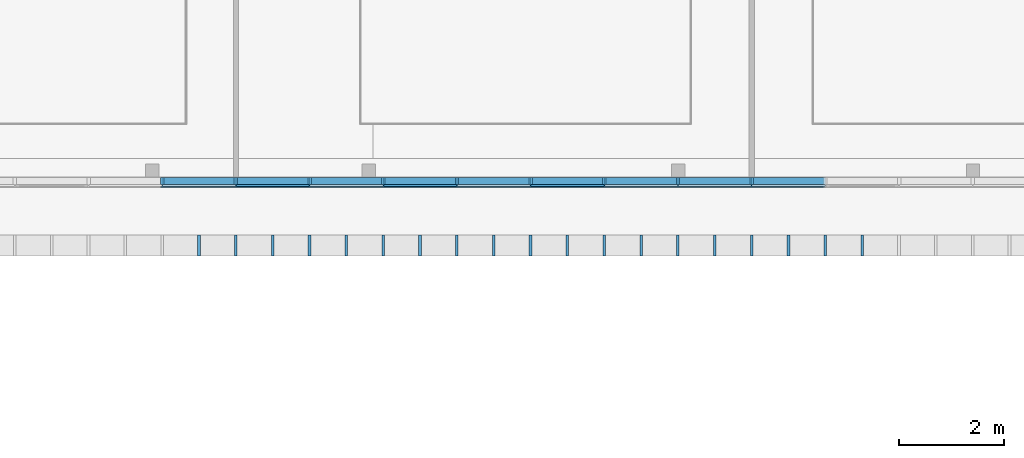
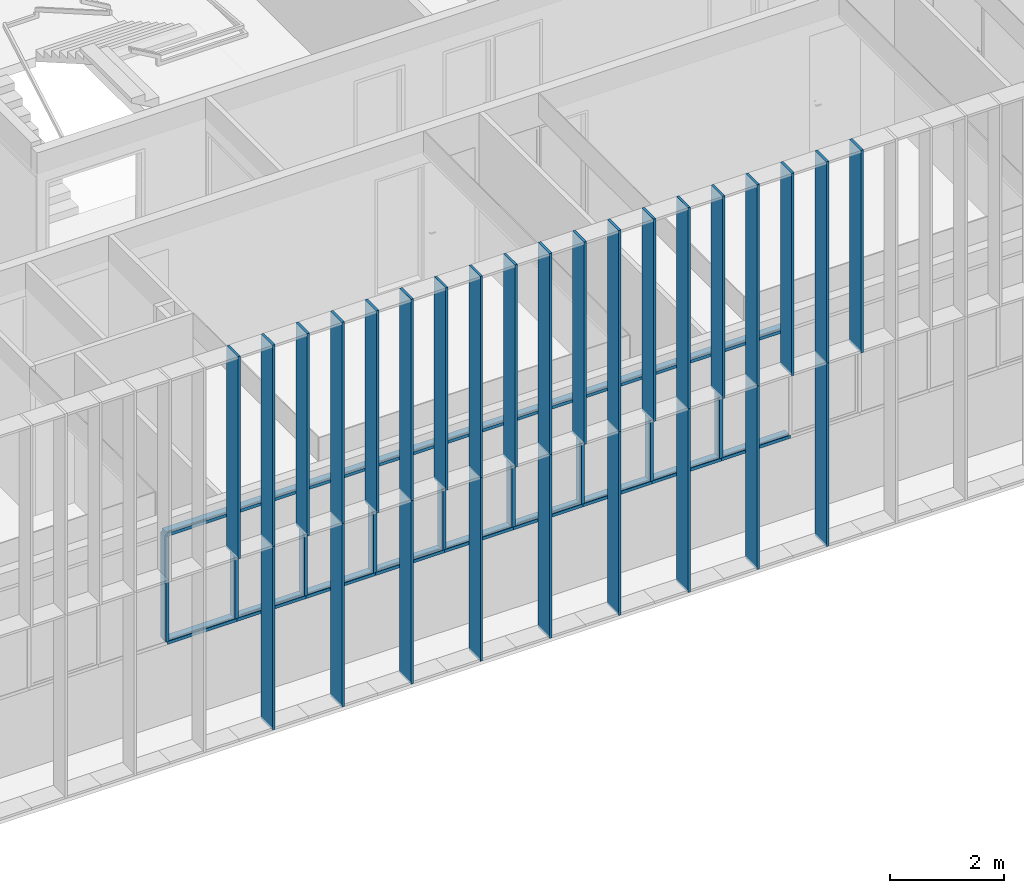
# One storey, part 11 of 106: 55 members, 2 elements without a shape of their own.
"""IFC2X3 building model written with IfcOpenShell, lengths in centimetres."""

from ifc_helpers import new_model, entity, si_unit, converted_unit, derived_unit, direction, frame, origin, origin_2d_with_axis, place, context, subcontext, project, spatial, polyline, rectangle, outline, extrude, source, transform, mapped, material, type_object, type_shapes, element, aggregate, save


model = new_model("IFC2X3")

# Units and contexts
model_context = context("Model", 3, precision=0.001, world=origin(), true_north=direction((6.12303176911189e-17, 1.0)))
body_context = subcontext(model_context, "Body", "Model", "MODEL_VIEW")
ifc_project = project(units=[si_unit("LENGTHUNIT", "METRE", prefix="CENTI"), si_unit("AREAUNIT", "SQUARE_METRE"), si_unit("VOLUMEUNIT", "CUBIC_METRE"), converted_unit("PLANEANGLEUNIT", "DEGREE", entity("IfcRatioMeasure", 0.0174532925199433), si_unit("PLANEANGLEUNIT", "RADIAN"), dimensions=[0, 0, 0, 0, 0, 0, 0]), si_unit("MASSUNIT", "GRAM", prefix="KILO"), derived_unit("MASSDENSITYUNIT", [(si_unit("MASSUNIT", "GRAM", prefix="KILO"), 1), (si_unit("LENGTHUNIT", "METRE"), -3)]), si_unit("TIMEUNIT", "SECOND"), si_unit("FREQUENCYUNIT", "HERTZ"), si_unit("THERMODYNAMICTEMPERATUREUNIT", "DEGREE_CELSIUS"), derived_unit("THERMALTRANSMITTANCEUNIT", [(si_unit("MASSUNIT", "GRAM", prefix="KILO"), 1), (si_unit("THERMODYNAMICTEMPERATUREUNIT", "KELVIN"), -1), (si_unit("TIMEUNIT", "SECOND"), -3)]), derived_unit("VOLUMETRICFLOWRATEUNIT", [(si_unit("LENGTHUNIT", "METRE"), 3), (si_unit("TIMEUNIT", "SECOND"), -1)]), si_unit("ELECTRICCURRENTUNIT", "AMPERE"), si_unit("ELECTRICVOLTAGEUNIT", "VOLT"), si_unit("POWERUNIT", "WATT"), si_unit("FORCEUNIT", "NEWTON", prefix="KILO"), si_unit("ILLUMINANCEUNIT", "LUX"), si_unit("LUMINOUSFLUXUNIT", "LUMEN"), si_unit("LUMINOUSINTENSITYUNIT", "CANDELA"), derived_unit("USERDEFINED", [(si_unit("MASSUNIT", "GRAM", prefix="KILO"), -1), (si_unit("LENGTHUNIT", "METRE"), -2), (si_unit("TIMEUNIT", "SECOND"), 3), (si_unit("LUMINOUSFLUXUNIT", "LUMEN"), 1)]), derived_unit("LINEARVELOCITYUNIT", [(si_unit("LENGTHUNIT", "METRE"), 1), (si_unit("TIMEUNIT", "SECOND"), -1)]), si_unit("PRESSUREUNIT", "PASCAL"), derived_unit("USERDEFINED", [(si_unit("LENGTHUNIT", "METRE"), -2), (si_unit("MASSUNIT", "GRAM", prefix="KILO"), 1), (si_unit("TIMEUNIT", "SECOND"), -2)])], contexts=[model_context])

# Site, building, storey
site_placement = place(None, frame((-2781.94577612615, 7442.24238424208, 0.0)))
site = spatial("IfcSite", under=ifc_project, at=site_placement, Name="Default", CompositionType="ELEMENT")
building_placement = place(site_placement, origin())
building = spatial("IfcBuilding", under=site, at=building_placement, CompositionType="ELEMENT")
storey_placement = place(building_placement, frame((0.0, 0.0, 422.0)))
storey = spatial("IfcBuildingStorey", under=building, at=storey_placement, Name="Toiture - Cuisine", CompositionType="ELEMENT", Elevation=421.999999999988)

# Curtain wall, members
curtain_wall_type_1 = type_object("IfcCurtainWallType", Name="Mur-rideau:07 - mur rideau trame 140 cm", PredefinedType="NOTDEFINED")
curtain_wall_1_placement = place(building_placement, origin())
curtain_wall_1 = element("IfcCurtainWall", 1, at=curtain_wall_1_placement, inside=storey, type_object=curtain_wall_type_1, Name="Mur-rideau:07 - mur rideau trame 140 cm", ObjectType="Mur-rideau:07 - mur rideau trame 140 cm")
ifc_material = material(Name="Aluminium")
member_type_1 = type_object("IfcMemberType", Name="150 x 25mm Détails", PredefinedType="MEMBER")
shared_shape_1 = source(origin(), body_context, "Body", "SweptSolid", [
    extrude(outline(polyline([(-5.6666666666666, -3.24999999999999), (-3.66666666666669, -3.24999999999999), (-3.66666666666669, -0.868749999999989), (-0.166666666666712, -0.868749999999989), (-0.166666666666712, -3.25000000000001), (13.3333333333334, -3.25000000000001), (13.3333333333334, 3.24999999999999), (-0.16666666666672, 3.24999999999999), (-0.16666666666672, 0.868749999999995), (-3.66666666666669, 0.868749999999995), (-3.66666666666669, 3.25), (-5.6666666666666, 3.25), (-5.6666666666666, -3.24999999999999)])), frame((-3.24999999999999, -1.96666666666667, -140.0), z_axis=(0.0, 0.0, 1.0), x_axis=(0.0, -1.0, 0.0)), (0.0, 0.0, 1.0), 140.000000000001),
])
type_shapes(member_type_1, [shared_shape_1])
member_1_placement = place(building_placement, frame((-3910.29988284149, -3046.51349958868, 743.0), z_axis=(1.0, 0.0, 0.0), x_axis=(0.0, 0.0, 1.0)))
member_1 = element("IfcMember", 2, at=member_1_placement, type_object=member_type_1, material=ifc_material, Name="Meneau rectangulaire:150 x 25mm Détails", ObjectType="Meneau rectangulaire:150 x 25mm Détails", context=body_context, shape_type="MappedRepresentation", body=[
    mapped(shared_shape_1, transform((0.0, 0.0, 0.0), scale=1.0)),
])
member_2_placement = place(building_placement, frame((-3770.29988284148, -3046.51349958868, 743.0), z_axis=(1.0, 0.0, 0.0), x_axis=(0.0, 0.0, 1.0)))
member_2 = element("IfcMember", 3, at=member_2_placement, type_object=member_type_1, material=ifc_material, Name="Meneau rectangulaire:150 x 25mm Détails", ObjectType="Meneau rectangulaire:150 x 25mm Détails", context=body_context, shape_type="MappedRepresentation", body=[
    mapped(shared_shape_1, transform((0.0, 0.0, 0.0), scale=1.0)),
])
member_3_placement = place(building_placement, frame((-3630.29988284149, -3046.51349958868, 743.0), z_axis=(1.0, 0.0, 0.0), x_axis=(0.0, 0.0, 1.0)))
member_3 = element("IfcMember", 4, at=member_3_placement, type_object=member_type_1, material=ifc_material, Name="Meneau rectangulaire:150 x 25mm Détails", ObjectType="Meneau rectangulaire:150 x 25mm Détails", context=body_context, shape_type="MappedRepresentation", body=[
    mapped(shared_shape_1, transform((0.0, 0.0, 0.0), scale=1.0)),
])
member_4_placement = place(building_placement, frame((-3490.29988284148, -3046.51349958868, 743.0), z_axis=(1.0, 0.0, 0.0), x_axis=(0.0, 0.0, 1.0)))
member_4 = element("IfcMember", 5, at=member_4_placement, type_object=member_type_1, material=ifc_material, Name="Meneau rectangulaire:150 x 25mm Détails", ObjectType="Meneau rectangulaire:150 x 25mm Détails", context=body_context, shape_type="MappedRepresentation", body=[
    mapped(shared_shape_1, transform((0.0, 0.0, 0.0), scale=1.0)),
])
member_5_placement = place(building_placement, frame((-3350.29988284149, -3046.51349958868, 743.0), z_axis=(1.0, 0.0, 0.0), x_axis=(0.0, 0.0, 1.0)))
member_5 = element("IfcMember", 6, at=member_5_placement, type_object=member_type_1, material=ifc_material, Name="Meneau rectangulaire:150 x 25mm Détails", ObjectType="Meneau rectangulaire:150 x 25mm Détails", context=body_context, shape_type="MappedRepresentation", body=[
    mapped(shared_shape_1, transform((0.0, 0.0, 0.0), scale=1.0)),
])
member_6_placement = place(building_placement, frame((-3210.29988284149, -3046.51349958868, 743.0), z_axis=(1.0, 0.0, 0.0), x_axis=(0.0, 0.0, 1.0)))
member_6 = element("IfcMember", 7, at=member_6_placement, type_object=member_type_1, material=ifc_material, Name="Meneau rectangulaire:150 x 25mm Détails", ObjectType="Meneau rectangulaire:150 x 25mm Détails", context=body_context, shape_type="MappedRepresentation", body=[
    mapped(shared_shape_1, transform((0.0, 0.0, 0.0), scale=1.0)),
])
member_7_placement = place(building_placement, frame((-3070.29988284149, -3046.51349958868, 743.0), z_axis=(1.0, 0.0, 0.0), x_axis=(0.0, 0.0, 1.0)))
member_7 = element("IfcMember", 8, at=member_7_placement, type_object=member_type_1, material=ifc_material, Name="Meneau rectangulaire:150 x 25mm Détails", ObjectType="Meneau rectangulaire:150 x 25mm Détails", context=body_context, shape_type="MappedRepresentation", body=[
    mapped(shared_shape_1, transform((0.0, 0.0, 0.0), scale=1.0)),
])
member_8_placement = place(building_placement, frame((-2930.29988284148, -3046.51349958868, 743.0), z_axis=(1.0, 0.0, 0.0), x_axis=(0.0, 0.0, 1.0)))
member_8 = element("IfcMember", 9, at=member_8_placement, type_object=member_type_1, material=ifc_material, Name="Meneau rectangulaire:150 x 25mm Détails", ObjectType="Meneau rectangulaire:150 x 25mm Détails", context=body_context, shape_type="MappedRepresentation", body=[
    mapped(shared_shape_1, transform((0.0, 0.0, 0.0), scale=1.0)),
])
member_9_placement = place(building_placement, frame((-2790.29988284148, -3046.51349958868, 743.0), z_axis=(1.0, 0.0, 0.0), x_axis=(0.0, 0.0, 1.0)))
member_9 = element("IfcMember", 10, at=member_9_placement, type_object=member_type_1, material=ifc_material, Name="Meneau rectangulaire:150 x 25mm Détails", ObjectType="Meneau rectangulaire:150 x 25mm Détails", context=body_context, shape_type="MappedRepresentation", body=[
    mapped(shared_shape_1, transform((0.0, 0.0, 0.0), scale=1.0)),
])
member_type_2 = type_object("IfcMemberType", Name="150 x 25mm Détails", PredefinedType="MEMBER")
shared_shape_2 = source(origin(), body_context, "Body", "SweptSolid", [
    extrude(outline(polyline([(-5.66666666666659, -3.25), (-3.66666666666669, -3.25), (-3.66666666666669, -0.868749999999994), (-0.166666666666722, -0.868749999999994), (-0.166666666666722, -3.25000000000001), (13.3333333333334, -3.24999999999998), (13.3333333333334, 3.25000000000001), (-0.166666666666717, 3.25000000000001), (-0.166666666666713, 0.868749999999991), (-3.66666666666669, 0.868749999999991), (-3.66666666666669, 3.24999999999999), (-5.66666666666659, 3.24999999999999), (-5.66666666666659, -3.25)])), frame((-3.24999999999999, -1.96666666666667, -140.0), z_axis=(0.0, 0.0, 1.0), x_axis=(0.0, -1.0, 0.0)), (0.0, 0.0, 1.0), 140.000000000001),
])
type_shapes(member_type_2, [shared_shape_2])
member_10_placement = place(building_placement, frame((-4050.29988284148, -3046.51349958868, 505.500000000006), z_axis=(-1.0, 0.0, 0.0), x_axis=(0.0, 0.0, -1.0)))
member_10 = element("IfcMember", 11, at=member_10_placement, type_object=member_type_2, material=ifc_material, Name="Meneau rectangulaire:150 x 25mm Détails", ObjectType="Meneau rectangulaire:150 x 25mm Détails", context=body_context, shape_type="MappedRepresentation", body=[
    mapped(shared_shape_2, transform((0.0, 0.0, 0.0), scale=1.0)),
])
member_11_placement = place(building_placement, frame((-3910.29988284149, -3046.51349958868, 505.500000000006), z_axis=(-1.0, 0.0, 0.0), x_axis=(0.0, 0.0, -1.0)))
member_11 = element("IfcMember", 12, at=member_11_placement, type_object=member_type_2, material=ifc_material, Name="Meneau rectangulaire:150 x 25mm Détails", ObjectType="Meneau rectangulaire:150 x 25mm Détails", context=body_context, shape_type="MappedRepresentation", body=[
    mapped(shared_shape_2, transform((0.0, 0.0, 0.0), scale=1.0)),
])
member_12_placement = place(building_placement, frame((-3770.29988284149, -3046.51349958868, 505.500000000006), z_axis=(-1.0, 0.0, 0.0), x_axis=(0.0, 0.0, -1.0)))
member_12 = element("IfcMember", 13, at=member_12_placement, type_object=member_type_2, material=ifc_material, Name="Meneau rectangulaire:150 x 25mm Détails", ObjectType="Meneau rectangulaire:150 x 25mm Détails", context=body_context, shape_type="MappedRepresentation", body=[
    mapped(shared_shape_2, transform((0.0, 0.0, 0.0), scale=1.0)),
])
member_13_placement = place(building_placement, frame((-3630.29988284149, -3046.51349958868, 505.500000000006), z_axis=(-1.0, 0.0, 0.0), x_axis=(0.0, 0.0, -1.0)))
member_13 = element("IfcMember", 14, at=member_13_placement, type_object=member_type_2, material=ifc_material, Name="Meneau rectangulaire:150 x 25mm Détails", ObjectType="Meneau rectangulaire:150 x 25mm Détails", context=body_context, shape_type="MappedRepresentation", body=[
    mapped(shared_shape_2, transform((0.0, 0.0, 0.0), scale=1.0)),
])
member_14_placement = place(building_placement, frame((-3490.29988284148, -3046.51349958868, 505.500000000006), z_axis=(-1.0, 0.0, 0.0), x_axis=(0.0, 0.0, -1.0)))
member_14 = element("IfcMember", 15, at=member_14_placement, type_object=member_type_2, material=ifc_material, Name="Meneau rectangulaire:150 x 25mm Détails", ObjectType="Meneau rectangulaire:150 x 25mm Détails", context=body_context, shape_type="MappedRepresentation", body=[
    mapped(shared_shape_2, transform((0.0, 0.0, 0.0), scale=1.0)),
])
member_15_placement = place(building_placement, frame((-3350.29988284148, -3046.51349958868, 505.500000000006), z_axis=(-1.0, 0.0, 0.0), x_axis=(0.0, 0.0, -1.0)))
member_15 = element("IfcMember", 16, at=member_15_placement, type_object=member_type_2, material=ifc_material, Name="Meneau rectangulaire:150 x 25mm Détails", ObjectType="Meneau rectangulaire:150 x 25mm Détails", context=body_context, shape_type="MappedRepresentation", body=[
    mapped(shared_shape_2, transform((0.0, 0.0, 0.0), scale=1.0)),
])
member_16_placement = place(building_placement, frame((-3210.29988284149, -3046.51349958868, 505.500000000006), z_axis=(-1.0, 0.0, 0.0), x_axis=(0.0, 0.0, -1.0)))
member_16 = element("IfcMember", 17, at=member_16_placement, type_object=member_type_2, material=ifc_material, Name="Meneau rectangulaire:150 x 25mm Détails", ObjectType="Meneau rectangulaire:150 x 25mm Détails", context=body_context, shape_type="MappedRepresentation", body=[
    mapped(shared_shape_2, transform((0.0, 0.0, 0.0), scale=1.0)),
])
member_17_placement = place(building_placement, frame((-3070.29988284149, -3046.51349958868, 505.500000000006), z_axis=(-1.0, 0.0, 0.0), x_axis=(0.0, 0.0, -1.0)))
member_17 = element("IfcMember", 18, at=member_17_placement, type_object=member_type_2, material=ifc_material, Name="Meneau rectangulaire:150 x 25mm Détails", ObjectType="Meneau rectangulaire:150 x 25mm Détails", context=body_context, shape_type="MappedRepresentation", body=[
    mapped(shared_shape_2, transform((0.0, 0.0, 0.0), scale=1.0)),
])
member_18_placement = place(building_placement, frame((-2930.29988284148, -3046.51349958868, 505.500000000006), z_axis=(-1.0, 0.0, 0.0), x_axis=(0.0, 0.0, -1.0)))
member_18 = element("IfcMember", 19, at=member_18_placement, type_object=member_type_2, material=ifc_material, Name="Meneau rectangulaire:150 x 25mm Détails", ObjectType="Meneau rectangulaire:150 x 25mm Détails", context=body_context, shape_type="MappedRepresentation", body=[
    mapped(shared_shape_2, transform((0.0, 0.0, 0.0), scale=1.0)),
])
member_type_3 = type_object("IfcMemberType", Name="150 x 25mm Détails", PredefinedType="MEMBER")
shared_shape_3 = source(origin(), body_context, "Body", "SweptSolid", [
    extrude(outline(polyline([(-5.6666666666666, -3.24999999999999), (-3.66666666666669, -3.24999999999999), (-3.66666666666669, -0.86874999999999), (-0.166666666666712, -0.86874999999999), (-0.166666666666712, -3.25000000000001), (13.3333333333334, -3.25000000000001), (13.3333333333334, 3.24999999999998), (-0.16666666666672, 3.24999999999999), (-0.16666666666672, 0.868749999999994), (-3.66666666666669, 0.868749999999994), (-3.66666666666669, 3.25), (-5.6666666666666, 3.25), (-5.6666666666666, -3.24999999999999)])), frame((0.0, -1.96666666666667, -224.5), z_axis=(0.0, 0.0, 1.0), x_axis=(0.0, -1.0, 0.0)), (0.0, 0.0, 1.0), 224.5),
])
type_shapes(member_type_3, [shared_shape_3])
member_19_placement = place(building_placement, frame((-4050.29988284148, -3046.51349958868, 512.0), z_axis=(0.0, 0.0, -1.0), x_axis=(1.0, 0.0, 0.0)))
member_19 = element("IfcMember", 20, at=member_19_placement, type_object=member_type_3, material=ifc_material, Name="Meneau rectangulaire:150 x 25mm Détails", ObjectType="Meneau rectangulaire:150 x 25mm Détails", context=body_context, shape_type="MappedRepresentation", body=[
    mapped(shared_shape_3, transform((0.0, 0.0, 0.0), scale=1.0)),
])
member_20_placement = place(building_placement, frame((-3910.29988284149, -3046.51349958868, 512.0), z_axis=(0.0, 0.0, -1.0), x_axis=(1.0, 0.0, 0.0)))
member_20 = element("IfcMember", 21, at=member_20_placement, type_object=member_type_3, material=ifc_material, Name="Meneau rectangulaire:150 x 25mm Détails", ObjectType="Meneau rectangulaire:150 x 25mm Détails", context=body_context, shape_type="MappedRepresentation", body=[
    mapped(shared_shape_3, transform((0.0, 0.0, 0.0), scale=1.0)),
])
member_21_placement = place(building_placement, frame((-3770.29988284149, -3046.51349958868, 512.0), z_axis=(0.0, 0.0, -1.0), x_axis=(1.0, 0.0, 0.0)))
member_21 = element("IfcMember", 22, at=member_21_placement, type_object=member_type_3, material=ifc_material, Name="Meneau rectangulaire:150 x 25mm Détails", ObjectType="Meneau rectangulaire:150 x 25mm Détails", context=body_context, shape_type="MappedRepresentation", body=[
    mapped(shared_shape_3, transform((0.0, 0.0, 0.0), scale=1.0)),
])
member_22_placement = place(building_placement, frame((-3630.29988284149, -3046.51349958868, 512.0), z_axis=(0.0, 0.0, -1.0), x_axis=(1.0, 0.0, 0.0)))
member_22 = element("IfcMember", 23, at=member_22_placement, type_object=member_type_3, material=ifc_material, Name="Meneau rectangulaire:150 x 25mm Détails", ObjectType="Meneau rectangulaire:150 x 25mm Détails", context=body_context, shape_type="MappedRepresentation", body=[
    mapped(shared_shape_3, transform((0.0, 0.0, 0.0), scale=1.0)),
])
member_23_placement = place(building_placement, frame((-3490.29988284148, -3046.51349958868, 512.0), z_axis=(0.0, 0.0, -1.0), x_axis=(1.0, 0.0, 0.0)))
member_23 = element("IfcMember", 24, at=member_23_placement, type_object=member_type_3, material=ifc_material, Name="Meneau rectangulaire:150 x 25mm Détails", ObjectType="Meneau rectangulaire:150 x 25mm Détails", context=body_context, shape_type="MappedRepresentation", body=[
    mapped(shared_shape_3, transform((0.0, 0.0, 0.0), scale=1.0)),
])
member_24_placement = place(building_placement, frame((-3350.29988284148, -3046.51349958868, 512.0), z_axis=(0.0, 0.0, -1.0), x_axis=(1.0, 0.0, 0.0)))
member_24 = element("IfcMember", 25, at=member_24_placement, type_object=member_type_3, material=ifc_material, Name="Meneau rectangulaire:150 x 25mm Détails", ObjectType="Meneau rectangulaire:150 x 25mm Détails", context=body_context, shape_type="MappedRepresentation", body=[
    mapped(shared_shape_3, transform((0.0, 0.0, 0.0), scale=1.0)),
])
member_25_placement = place(building_placement, frame((-3210.29988284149, -3046.51349958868, 512.0), z_axis=(0.0, 0.0, -1.0), x_axis=(1.0, 0.0, 0.0)))
member_25 = element("IfcMember", 26, at=member_25_placement, type_object=member_type_3, material=ifc_material, Name="Meneau rectangulaire:150 x 25mm Détails", ObjectType="Meneau rectangulaire:150 x 25mm Détails", context=body_context, shape_type="MappedRepresentation", body=[
    mapped(shared_shape_3, transform((0.0, 0.0, 0.0), scale=1.0)),
])
member_26_placement = place(building_placement, frame((-3070.29988284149, -3046.51349958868, 512.0), z_axis=(0.0, 0.0, -1.0), x_axis=(1.0, 0.0, 0.0)))
member_26 = element("IfcMember", 27, at=member_26_placement, type_object=member_type_3, material=ifc_material, Name="Meneau rectangulaire:150 x 25mm Détails", ObjectType="Meneau rectangulaire:150 x 25mm Détails", context=body_context, shape_type="MappedRepresentation", body=[
    mapped(shared_shape_3, transform((0.0, 0.0, 0.0), scale=1.0)),
])
member_27_placement = place(building_placement, frame((-2930.29988284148, -3046.51349958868, 512.0), z_axis=(0.0, 0.0, -1.0), x_axis=(1.0, 0.0, 0.0)))
member_27 = element("IfcMember", 28, at=member_27_placement, type_object=member_type_3, material=ifc_material, Name="Meneau rectangulaire:150 x 25mm Détails", ObjectType="Meneau rectangulaire:150 x 25mm Détails", context=body_context, shape_type="MappedRepresentation", body=[
    mapped(shared_shape_3, transform((0.0, 0.0, 0.0), scale=1.0)),
])
aggregate(curtain_wall_1, [member_1, member_2, member_3, member_4, member_5, member_6, member_7, member_8, member_9, member_10, member_11, member_12, member_13, member_14, member_15, member_16, member_17, member_18, member_19, member_20, member_21, member_22, member_23, member_24, member_25, member_26, member_27])

curtain_wall_type_2 = type_object("IfcCurtainWallType", Name="Mur-rideau:Epines - 400x30mm", PredefinedType="NOTDEFINED")
curtain_wall_2_placement = place(building_placement, origin())
curtain_wall_2 = element("IfcCurtainWall", 29, at=curtain_wall_2_placement, inside=storey, type_object=curtain_wall_type_2, Name="Mur-rideau:Epines - 400x30mm", ObjectType="Mur-rideau:Epines - 400x30mm")
member_type_4 = type_object("IfcMemberType", Name="Epine sud (400x50 mm)", PredefinedType="MEMBER")
shared_shape_4 = source(origin(), body_context, "Body", "SweptSolid", [
    extrude(rectangle(XDim=40.0, YDim=5.0, at=origin_2d_with_axis()), frame((0.0, 0.0, -392.5), z_axis=(0.0, 0.0, 1.0), x_axis=(0.0, -1.0, 0.0)), (0.0, 0.0, 1.0), 392.5),
])
type_shapes(member_type_4, [shared_shape_4])
member_28_placement = place(building_placement, frame((-3910.49987760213, -3160.31349958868, 353.0), z_axis=(0.0, 0.0, -1.0), x_axis=(1.0, 0.0, 0.0)))
member_28 = element("IfcMember", 30, at=member_28_placement, type_object=member_type_4, material=ifc_material, Name="Meneau rectangulaire:Epine sud (400x50 mm)", ObjectType="Meneau rectangulaire:Epine sud (400x50 mm)", context=body_context, shape_type="MappedRepresentation", body=[
    mapped(shared_shape_4, transform((0.0, 0.0, 0.0), scale=1.0)),
])
member_29_placement = place(building_placement, frame((-3770.49987760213, -3160.31349958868, 353.0), z_axis=(0.0, 0.0, -1.0), x_axis=(1.0, 0.0, 0.0)))
member_29 = element("IfcMember", 31, at=member_29_placement, type_object=member_type_4, material=ifc_material, Name="Meneau rectangulaire:Epine sud (400x50 mm)", ObjectType="Meneau rectangulaire:Epine sud (400x50 mm)", context=body_context, shape_type="MappedRepresentation", body=[
    mapped(shared_shape_4, transform((0.0, 0.0, 0.0), scale=1.0)),
])
member_30_placement = place(building_placement, frame((-3630.49987760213, -3160.31349958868, 353.0), z_axis=(0.0, 0.0, -1.0), x_axis=(1.0, 0.0, 0.0)))
member_30 = element("IfcMember", 32, at=member_30_placement, type_object=member_type_4, material=ifc_material, Name="Meneau rectangulaire:Epine sud (400x50 mm)", ObjectType="Meneau rectangulaire:Epine sud (400x50 mm)", context=body_context, shape_type="MappedRepresentation", body=[
    mapped(shared_shape_4, transform((0.0, 0.0, 0.0), scale=1.0)),
])
member_31_placement = place(building_placement, frame((-3490.49987760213, -3160.31349958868, 353.0), z_axis=(0.0, 0.0, -1.0), x_axis=(1.0, 0.0, 0.0)))
member_31 = element("IfcMember", 33, at=member_31_placement, type_object=member_type_4, material=ifc_material, Name="Meneau rectangulaire:Epine sud (400x50 mm)", ObjectType="Meneau rectangulaire:Epine sud (400x50 mm)", context=body_context, shape_type="MappedRepresentation", body=[
    mapped(shared_shape_4, transform((0.0, 0.0, 0.0), scale=1.0)),
])
member_32_placement = place(building_placement, frame((-3070.49987760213, -3160.31349958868, 353.0), z_axis=(0.0, 0.0, -1.0), x_axis=(1.0, 0.0, 0.0)))
member_32 = element("IfcMember", 34, at=member_32_placement, type_object=member_type_4, material=ifc_material, Name="Meneau rectangulaire:Epine sud (400x50 mm)", ObjectType="Meneau rectangulaire:Epine sud (400x50 mm)", context=body_context, shape_type="MappedRepresentation", body=[
    mapped(shared_shape_4, transform((0.0, 0.0, 0.0), scale=1.0)),
])
member_33_placement = place(building_placement, frame((-3350.49987760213, -3160.31349958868, 353.0), z_axis=(0.0, 0.0, -1.0), x_axis=(1.0, 0.0, 0.0)))
member_33 = element("IfcMember", 35, at=member_33_placement, type_object=member_type_4, material=ifc_material, Name="Meneau rectangulaire:Epine sud (400x50 mm)", ObjectType="Meneau rectangulaire:Epine sud (400x50 mm)", context=body_context, shape_type="MappedRepresentation", body=[
    mapped(shared_shape_4, transform((0.0, 0.0, 0.0), scale=1.0)),
])
member_34_placement = place(building_placement, frame((-3210.49987760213, -3160.31349958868, 353.0), z_axis=(0.0, 0.0, -1.0), x_axis=(1.0, 0.0, 0.0)))
member_34 = element("IfcMember", 36, at=member_34_placement, type_object=member_type_4, material=ifc_material, Name="Meneau rectangulaire:Epine sud (400x50 mm)", ObjectType="Meneau rectangulaire:Epine sud (400x50 mm)", context=body_context, shape_type="MappedRepresentation", body=[
    mapped(shared_shape_4, transform((0.0, 0.0, 0.0), scale=1.0)),
])
member_35_placement = place(building_placement, frame((-2930.49987760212, -3160.31349958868, 353.0), z_axis=(0.0, 0.0, -1.0), x_axis=(1.0, 0.0, 0.0)))
member_35 = element("IfcMember", 37, at=member_35_placement, type_object=member_type_4, material=ifc_material, Name="Meneau rectangulaire:Epine sud (400x50 mm)", ObjectType="Meneau rectangulaire:Epine sud (400x50 mm)", context=body_context, shape_type="MappedRepresentation", body=[
    mapped(shared_shape_4, transform((0.0, 0.0, 0.0), scale=1.0)),
])
member_36_placement = place(building_placement, frame((-2790.49987760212, -3160.31349958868, 353.0), z_axis=(0.0, 0.0, -1.0), x_axis=(1.0, 0.0, 0.0)))
member_36 = element("IfcMember", 38, at=member_36_placement, type_object=member_type_4, material=ifc_material, Name="Meneau rectangulaire:Epine sud (400x50 mm)", ObjectType="Meneau rectangulaire:Epine sud (400x50 mm)", context=body_context, shape_type="MappedRepresentation", body=[
    mapped(shared_shape_4, transform((0.0, 0.0, 0.0), scale=1.0)),
])
member_type_5 = type_object("IfcMemberType", Name="Epine sud (400x50 mm)", PredefinedType="MEMBER")
shared_shape_5 = source(origin(), body_context, "Body", "SweptSolid", [
    extrude(rectangle(XDim=40.0, YDim=5.0, at=origin_2d_with_axis()), frame((0.0, 0.0, -430.5), z_axis=(0.0, 0.0, 1.0), x_axis=(0.0, -1.0, 0.0)), (0.0, 0.0, 1.0), 430.5),
])
type_shapes(member_type_5, [shared_shape_5])
member_37_placement = place(building_placement, frame((-3910.49987760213, -3160.31349958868, 745.5), z_axis=(0.0, 0.0, -1.0), x_axis=(1.0, 0.0, 0.0)))
member_37 = element("IfcMember", 39, at=member_37_placement, type_object=member_type_5, material=ifc_material, Name="Meneau rectangulaire:Epine sud (400x50 mm)", ObjectType="Meneau rectangulaire:Epine sud (400x50 mm)", context=body_context, shape_type="MappedRepresentation", body=[
    mapped(shared_shape_5, transform((0.0, 0.0, 0.0), scale=1.0)),
])
member_38_placement = place(building_placement, frame((-3770.49987760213, -3160.31349958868, 745.5), z_axis=(0.0, 0.0, -1.0), x_axis=(1.0, 0.0, 0.0)))
member_38 = element("IfcMember", 40, at=member_38_placement, type_object=member_type_5, material=ifc_material, Name="Meneau rectangulaire:Epine sud (400x50 mm)", ObjectType="Meneau rectangulaire:Epine sud (400x50 mm)", context=body_context, shape_type="MappedRepresentation", body=[
    mapped(shared_shape_5, transform((0.0, 0.0, 0.0), scale=1.0)),
])
member_39_placement = place(building_placement, frame((-3630.49987760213, -3160.31349958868, 745.5), z_axis=(0.0, 0.0, -1.0), x_axis=(1.0, 0.0, 0.0)))
member_39 = element("IfcMember", 41, at=member_39_placement, type_object=member_type_5, material=ifc_material, Name="Meneau rectangulaire:Epine sud (400x50 mm)", ObjectType="Meneau rectangulaire:Epine sud (400x50 mm)", context=body_context, shape_type="MappedRepresentation", body=[
    mapped(shared_shape_5, transform((0.0, 0.0, 0.0), scale=1.0)),
])
member_40_placement = place(building_placement, frame((-3490.49987760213, -3160.31349958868, 745.5), z_axis=(0.0, 0.0, -1.0), x_axis=(1.0, 0.0, 0.0)))
member_40 = element("IfcMember", 42, at=member_40_placement, type_object=member_type_5, material=ifc_material, Name="Meneau rectangulaire:Epine sud (400x50 mm)", ObjectType="Meneau rectangulaire:Epine sud (400x50 mm)", context=body_context, shape_type="MappedRepresentation", body=[
    mapped(shared_shape_5, transform((0.0, 0.0, 0.0), scale=1.0)),
])
member_41_placement = place(building_placement, frame((-3070.49987760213, -3160.31349958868, 745.5), z_axis=(0.0, 0.0, -1.0), x_axis=(1.0, 0.0, 0.0)))
member_41 = element("IfcMember", 43, at=member_41_placement, type_object=member_type_5, material=ifc_material, Name="Meneau rectangulaire:Epine sud (400x50 mm)", ObjectType="Meneau rectangulaire:Epine sud (400x50 mm)", context=body_context, shape_type="MappedRepresentation", body=[
    mapped(shared_shape_5, transform((0.0, 0.0, 0.0), scale=1.0)),
])
member_42_placement = place(building_placement, frame((-3350.49987760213, -3160.31349958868, 745.5), z_axis=(0.0, 0.0, -1.0), x_axis=(1.0, 0.0, 0.0)))
member_42 = element("IfcMember", 44, at=member_42_placement, type_object=member_type_5, material=ifc_material, Name="Meneau rectangulaire:Epine sud (400x50 mm)", ObjectType="Meneau rectangulaire:Epine sud (400x50 mm)", context=body_context, shape_type="MappedRepresentation", body=[
    mapped(shared_shape_5, transform((0.0, 0.0, 0.0), scale=1.0)),
])
member_43_placement = place(building_placement, frame((-3210.49987760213, -3160.31349958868, 745.5), z_axis=(0.0, 0.0, -1.0), x_axis=(1.0, 0.0, 0.0)))
member_43 = element("IfcMember", 45, at=member_43_placement, type_object=member_type_5, material=ifc_material, Name="Meneau rectangulaire:Epine sud (400x50 mm)", ObjectType="Meneau rectangulaire:Epine sud (400x50 mm)", context=body_context, shape_type="MappedRepresentation", body=[
    mapped(shared_shape_5, transform((0.0, 0.0, 0.0), scale=1.0)),
])
member_44_placement = place(building_placement, frame((-2930.49987760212, -3160.31349958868, 745.5), z_axis=(0.0, 0.0, -1.0), x_axis=(1.0, 0.0, 0.0)))
member_44 = element("IfcMember", 46, at=member_44_placement, type_object=member_type_5, material=ifc_material, Name="Meneau rectangulaire:Epine sud (400x50 mm)", ObjectType="Meneau rectangulaire:Epine sud (400x50 mm)", context=body_context, shape_type="MappedRepresentation", body=[
    mapped(shared_shape_5, transform((0.0, 0.0, 0.0), scale=1.0)),
])
member_45_placement = place(building_placement, frame((-2790.49987760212, -3160.31349958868, 745.5), z_axis=(0.0, 0.0, -1.0), x_axis=(1.0, 0.0, 0.0)))
member_45 = element("IfcMember", 47, at=member_45_placement, type_object=member_type_5, material=ifc_material, Name="Meneau rectangulaire:Epine sud (400x50 mm)", ObjectType="Meneau rectangulaire:Epine sud (400x50 mm)", context=body_context, shape_type="MappedRepresentation", body=[
    mapped(shared_shape_5, transform((0.0, 0.0, 0.0), scale=1.0)),
])
member_type_6 = type_object("IfcMemberType", Name="Epine sud (400x50 mm)", PredefinedType="MEMBER")
shared_shape_6 = source(origin(), body_context, "Body", "SweptSolid", [
    extrude(rectangle(XDim=40.0, YDim=5.0, at=origin_2d_with_axis()), frame((0.0, 0.0, -433.0), z_axis=(0.0, 0.0, 1.0), x_axis=(0.0, -1.0, 0.0)), (0.0, 0.0, 1.0), 433.0),
])
type_shapes(member_type_6, [shared_shape_6])
member_46_placement = place(building_placement, frame((-3980.49987760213, -3160.31349958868, 743.0), z_axis=(0.0, 0.0, -1.0), x_axis=(1.0, 0.0, 0.0)))
member_46 = element("IfcMember", 48, at=member_46_placement, type_object=member_type_6, material=ifc_material, Name="Meneau rectangulaire:Epine sud (400x50 mm)", ObjectType="Meneau rectangulaire:Epine sud (400x50 mm)", context=body_context, shape_type="MappedRepresentation", body=[
    mapped(shared_shape_6, transform((0.0, 0.0, 0.0), scale=1.0)),
])
member_47_placement = place(building_placement, frame((-3840.49987760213, -3160.31349958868, 743.0), z_axis=(0.0, 0.0, -1.0), x_axis=(1.0, 0.0, 0.0)))
member_47 = element("IfcMember", 49, at=member_47_placement, type_object=member_type_6, material=ifc_material, Name="Meneau rectangulaire:Epine sud (400x50 mm)", ObjectType="Meneau rectangulaire:Epine sud (400x50 mm)", context=body_context, shape_type="MappedRepresentation", body=[
    mapped(shared_shape_6, transform((0.0, 0.0, 0.0), scale=1.0)),
])
member_48_placement = place(building_placement, frame((-3700.49987760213, -3160.31349958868, 743.0), z_axis=(0.0, 0.0, -1.0), x_axis=(1.0, 0.0, 0.0)))
member_48 = element("IfcMember", 50, at=member_48_placement, type_object=member_type_6, material=ifc_material, Name="Meneau rectangulaire:Epine sud (400x50 mm)", ObjectType="Meneau rectangulaire:Epine sud (400x50 mm)", context=body_context, shape_type="MappedRepresentation", body=[
    mapped(shared_shape_6, transform((0.0, 0.0, 0.0), scale=1.0)),
])
member_49_placement = place(building_placement, frame((-3560.49987760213, -3160.31349958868, 743.0), z_axis=(0.0, 0.0, -1.0), x_axis=(1.0, 0.0, 0.0)))
member_49 = element("IfcMember", 51, at=member_49_placement, type_object=member_type_6, material=ifc_material, Name="Meneau rectangulaire:Epine sud (400x50 mm)", ObjectType="Meneau rectangulaire:Epine sud (400x50 mm)", context=body_context, shape_type="MappedRepresentation", body=[
    mapped(shared_shape_6, transform((0.0, 0.0, 0.0), scale=1.0)),
])
member_50_placement = place(building_placement, frame((-3420.49987760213, -3160.31349958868, 743.0), z_axis=(0.0, 0.0, -1.0), x_axis=(1.0, 0.0, 0.0)))
member_50 = element("IfcMember", 52, at=member_50_placement, type_object=member_type_6, material=ifc_material, Name="Meneau rectangulaire:Epine sud (400x50 mm)", ObjectType="Meneau rectangulaire:Epine sud (400x50 mm)", context=body_context, shape_type="MappedRepresentation", body=[
    mapped(shared_shape_6, transform((0.0, 0.0, 0.0), scale=1.0)),
])
member_51_placement = place(building_placement, frame((-3280.49987760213, -3160.31349958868, 743.0), z_axis=(0.0, 0.0, -1.0), x_axis=(1.0, 0.0, 0.0)))
member_51 = element("IfcMember", 53, at=member_51_placement, type_object=member_type_6, material=ifc_material, Name="Meneau rectangulaire:Epine sud (400x50 mm)", ObjectType="Meneau rectangulaire:Epine sud (400x50 mm)", context=body_context, shape_type="MappedRepresentation", body=[
    mapped(shared_shape_6, transform((0.0, 0.0, 0.0), scale=1.0)),
])
member_52_placement = place(building_placement, frame((-3140.49987760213, -3160.31349958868, 743.0), z_axis=(0.0, 0.0, -1.0), x_axis=(1.0, 0.0, 0.0)))
member_52 = element("IfcMember", 54, at=member_52_placement, type_object=member_type_6, material=ifc_material, Name="Meneau rectangulaire:Epine sud (400x50 mm)", ObjectType="Meneau rectangulaire:Epine sud (400x50 mm)", context=body_context, shape_type="MappedRepresentation", body=[
    mapped(shared_shape_6, transform((0.0, 0.0, 0.0), scale=1.0)),
])
member_53_placement = place(building_placement, frame((-3000.49987760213, -3160.31349958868, 743.0), z_axis=(0.0, 0.0, -1.0), x_axis=(1.0, 0.0, 0.0)))
member_53 = element("IfcMember", 55, at=member_53_placement, type_object=member_type_6, material=ifc_material, Name="Meneau rectangulaire:Epine sud (400x50 mm)", ObjectType="Meneau rectangulaire:Epine sud (400x50 mm)", context=body_context, shape_type="MappedRepresentation", body=[
    mapped(shared_shape_6, transform((0.0, 0.0, 0.0), scale=1.0)),
])
member_54_placement = place(building_placement, frame((-2860.49987760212, -3160.31349958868, 743.0), z_axis=(0.0, 0.0, -1.0), x_axis=(1.0, 0.0, 0.0)))
member_54 = element("IfcMember", 56, at=member_54_placement, type_object=member_type_6, material=ifc_material, Name="Meneau rectangulaire:Epine sud (400x50 mm)", ObjectType="Meneau rectangulaire:Epine sud (400x50 mm)", context=body_context, shape_type="MappedRepresentation", body=[
    mapped(shared_shape_6, transform((0.0, 0.0, 0.0), scale=1.0)),
])
member_55_placement = place(building_placement, frame((-2720.49987760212, -3160.31349958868, 743.0), z_axis=(0.0, 0.0, -1.0), x_axis=(1.0, 0.0, 0.0)))
member_55 = element("IfcMember", 57, at=member_55_placement, type_object=member_type_6, material=ifc_material, Name="Meneau rectangulaire:Epine sud (400x50 mm)", ObjectType="Meneau rectangulaire:Epine sud (400x50 mm)", context=body_context, shape_type="MappedRepresentation", body=[
    mapped(shared_shape_6, transform((0.0, 0.0, 0.0), scale=1.0)),
])
aggregate(curtain_wall_2, [member_28, member_29, member_37, member_38, member_39, member_30, member_40, member_31, member_41, member_32, member_42, member_33, member_43, member_34, member_44, member_35, member_45, member_36, member_46, member_47, member_48, member_49, member_50, member_51, member_52, member_53, member_54, member_55])

save(model, "model.ifc")
